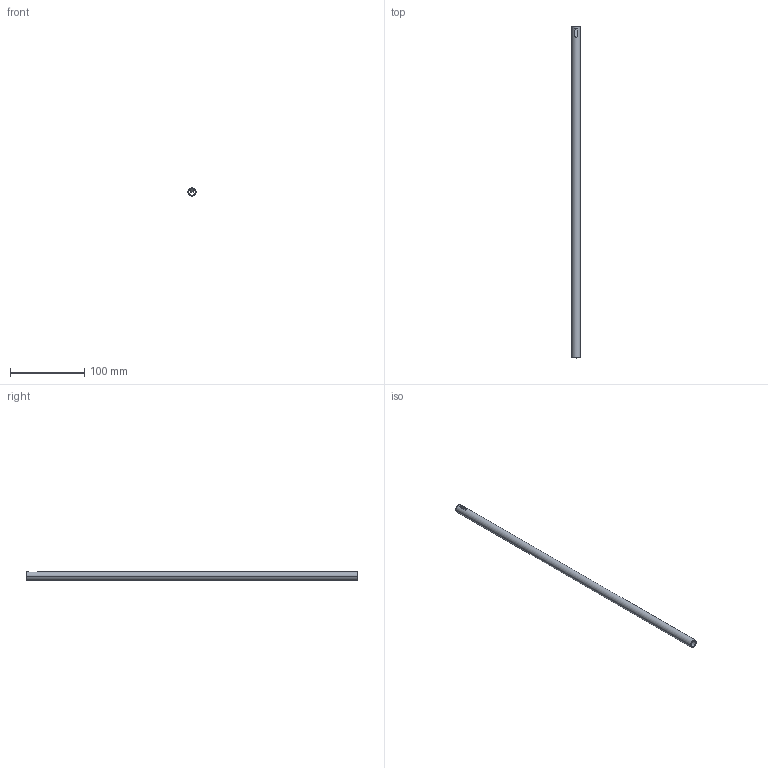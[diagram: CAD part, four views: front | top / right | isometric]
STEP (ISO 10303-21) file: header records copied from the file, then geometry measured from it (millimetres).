
FILE_DESCRIPTION (( 'STEP AP214' ), '1' );
FILE_NAME ('Relingsrohr_2S-Rundrel_P760604300_470.step', '2010-09-07T12:59:23', ( 'grass' ), ( '' ), 'SwSTEP 2.0', 'SolidWorks 2010', '' );
FILE_SCHEMA (( 'AUTOMOTIVE_DESIGN' ));
Length unit declared in the file: millimetre
Products named in the file (1): Relingsrohr_2S-Rundrel_P760604300_470
Bounding box: 11 x 446 x 11 mm (x, y, z)
Volume: 14009.3 mm3; surface area: 28126.3 mm2
Topology: 1 solids, 1 shells, 14 faces, 34 edges, 22 vertices
Faces by surface type: plane 10, cylinder 4
Entity records: 476 total; most frequent: CARTESIAN_POINT 77, DIRECTION 72, ORIENTED_EDGE 68, EDGE_CURVE 34, AXIS2_PLACEMENT_3D 25, VECTOR 22, LINE 22, VERTEX_POINT 22
